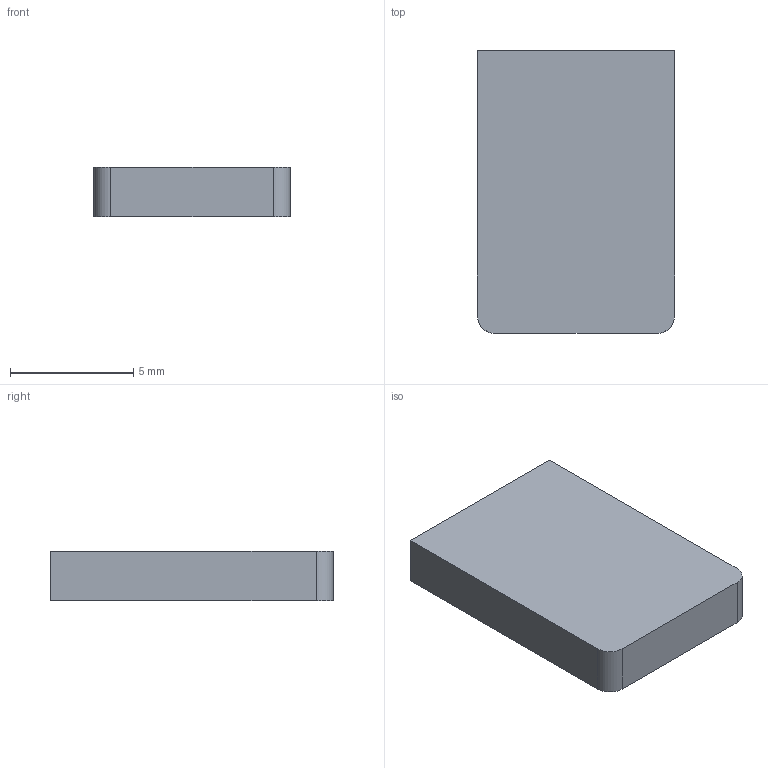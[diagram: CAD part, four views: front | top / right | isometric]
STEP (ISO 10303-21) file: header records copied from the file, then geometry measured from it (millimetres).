
FILE_DESCRIPTION(('Open CASCADE Model'),'2;1');
FILE_NAME('C27_UC1_Battery_Front_Pad_-1_Segment_1_FREE_STATE', '2026-09-09T20:28:31',('Author'),('Open CASCADE'), 'Open CASCADE STEP processor 7.9','build123d','Unknown');
FILE_SCHEMA(('AUTOMOTIVE_DESIGN { 1 0 10303 214 1 1 1 1 }'));
Length unit declared in the file: millimetre
Products named in the file (1): C27_UC1_Battery_Front_Pad_-1_Segment_1_FREE_STATE
Bounding box: 8 x 11.48 x 2 mm (x, y, z)
Volume: 183.3 mm3; surface area: 260 mm2
Topology: 1 solids, 1 shells, 8 faces, 18 edges, 12 vertices
Faces by surface type: plane 6, cylinder 2
Entity records: 470 total; most frequent: DIRECTION 76, CARTESIAN_POINT 75, LINE 46, VECTOR 46, ORIENTED_EDGE 36, PCURVE 36, DEFINITIONAL_REPRESENTATION 36, EDGE_CURVE 18
